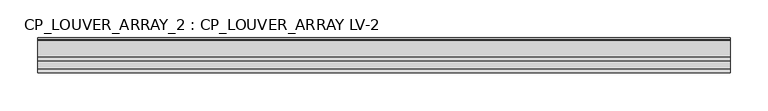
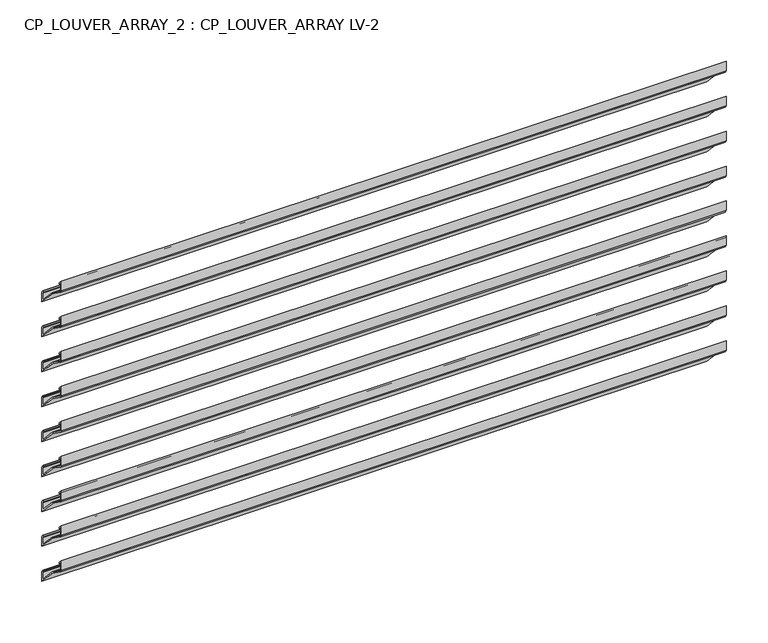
"""IFC4 building model written with IfcOpenShell, lengths in millimetres: plate geometry, CP_LOUVER_ARRAY_2 : CP_LOUVER_ARRAY LV-2."""

import ifcopenshell
import ifcopenshell.guid

model = None  # the IFC model being written
_history = None  # IfcOwnerHistory: only IFC2X3 demands one
_inside = {}  # id of a spatial element -> (the spatial element, [elements in it])
_under = {}  # id of a project, library or spatial element -> (it, [spatial elements below it])
_declared = {}  # id of a project -> (the project, [libraries it declares])
_typed = {}  # id of a type object -> (the type object, [elements of that type])
_made_of = {}  # id of a material, layer set ... -> (it, [elements and type objects made of it])


def new_model(schema):
    """Start an empty IFC model of exactly this schema.

    Asked for "IFC4X3", IfcOpenShell would pick the latest addendum, in which some entities
    have other attributes; the version numbers below select the first issue.
    IFC2X3 requires an IfcOwnerHistory on every rooted entity: one is made here for all.
    """
    global model, _history
    if schema == "IFC4X3":
        model = ifcopenshell.file(schema_version=(4, 3, 0, 0))
    else:
        model = ifcopenshell.file(schema=schema)
    _inside.clear()
    _under.clear()
    _declared.clear()
    _typed.clear()
    _made_of.clear()
    _history = None
    if model.schema == "IFC2X3":
        org = make("IfcOrganization", Name="unknown")
        user = make(
            "IfcPersonAndOrganization",
            ThePerson=make("IfcPerson", FamilyName="unknown"),
            TheOrganization=org,
        )
        app = make(
            "IfcApplication",
            ApplicationDeveloper=org,
            Version="unknown",
            ApplicationFullName="unknown",
            ApplicationIdentifier="unknown",
        )
        _history = make(
            "IfcOwnerHistory",
            OwningUser=user,
            OwningApplication=app,
            ChangeAction="ADDED",
            CreationDate=0,
        )
    return model


def make(cls, **values):
    """One entity of the class cls with the attributes given. An attribute that is None is left unset."""
    return model.create_entity(
        cls, **{name: value for name, value in values.items() if value is not None}
    )


def rooted(cls, **values):
    """An entity with a GlobalId (a new one), such as an element, a storey or a relation."""
    return make(cls, GlobalId=ifcopenshell.guid.new(), OwnerHistory=_history, **values)


def si_unit(unit_type, name, prefix=None):
    """IfcSIUnit, for example si_unit("LENGTHUNIT", "METRE", prefix="MILLI")."""
    return make("IfcSIUnit", UnitType=unit_type, Prefix=prefix, Name=name)


def assignment(units):
    """IfcUnitAssignment: the units of a project."""
    return None if units is None else make("IfcUnitAssignment", Units=units)


def point(xyz):
    """IfcCartesianPoint."""
    return None if xyz is None else make("IfcCartesianPoint", Coordinates=xyz)


def direction(xyz):
    """IfcDirection."""
    return None if xyz is None else make("IfcDirection", DirectionRatios=xyz)


def frame(location, z_axis=None, x_axis=None):
    """IfcAxis2Placement3D, a coordinate frame: its origin and axes. An axis left out is left unset."""
    return make(
        "IfcAxis2Placement3D",
        Location=point(location),
        Axis=direction(z_axis),
        RefDirection=direction(x_axis),
    )


def origin():
    """The frame at (0, 0, 0) with its axes left unset."""
    return frame((0.0, 0.0, 0.0))


def place(relative_to, where):
    """IfcLocalPlacement: puts the frame where relative to a parent placement (None: the world)."""
    return make(
        "IfcLocalPlacement", PlacementRelTo=relative_to, RelativePlacement=where
    )


def context(
    kind, dimensions, precision=None, world=None, true_north=None, identifier=None
):
    """IfcGeometricRepresentationContext, for example the 3D "Model" context."""
    return make(
        "IfcGeometricRepresentationContext",
        ContextIdentifier=identifier,
        ContextType=kind,
        CoordinateSpaceDimension=dimensions,
        Precision=precision,
        WorldCoordinateSystem=world,
        TrueNorth=true_north,
    )


def project(units=None, contexts=None):
    """IfcProject with its units and contexts."""
    return rooted(
        "IfcProject",
        Name="project",
        RepresentationContexts=contexts,
        UnitsInContext=assignment(units),
    )


def spatial(cls, under=None, at=None, **own):
    """A site, building, storey or space (cls), placed at a placement, below another one or the project."""
    s = rooted(cls, ObjectPlacement=at, **own)
    if under is not None:
        _under.setdefault(under.id(), (under, []))[1].append(s)
    return s


def faces_of(points, faces, orient=None, outer=None):
    """IfcFace entities. A face is a list of loops; a loop is a list of indices into points, from 0.

    orient and outer hold one flag for each loop. By default every Orientation is true, the
    first loop of a face is its IfcFaceOuterBound and the others are IfcFaceBound.
    """
    made = []
    for i, loops in enumerate(faces):
        bounds = []
        for j, loop in enumerate(loops):
            is_outer = j == 0 if outer is None else outer[i][j]
            bounds.append(
                make(
                    "IfcFaceOuterBound" if is_outer else "IfcFaceBound",
                    Bound=make("IfcPolyLoop", Polygon=[points[k] for k in loop]),
                    Orientation=True if orient is None else orient[i][j],
                )
            )
        made.append(make("IfcFace", Bounds=bounds))
    return made


def faceted_brep(points, faces, orient=None, outer=None, voids=None):
    """IfcFacetedBrep: a solid bounded by flat faces; with voids (closed shells), ...WithVoids."""
    shared = [point(p) for p in points]
    hull = make("IfcClosedShell", CfsFaces=faces_of(shared, faces, orient, outer))
    if voids is None:
        return make("IfcFacetedBrep", Outer=hull)
    return make(
        "IfcFacetedBrepWithVoids",
        Outer=hull,
        Voids=[
            make(cls, CfsFaces=faces_of(shared, fs, o, b)) for cls, fs, o, b in voids
        ],
    )


def shape(context_of_items, identifier, shape_type, items):
    """IfcShapeRepresentation: the items that make up one representation, for example the "Body"."""
    return make(
        "IfcShapeRepresentation",
        ContextOfItems=context_of_items,
        RepresentationIdentifier=identifier,
        RepresentationType=shape_type,
        Items=items,
    )


def source(mapping_origin, context_of_items, identifier, shape_type, items):
    """IfcRepresentationMap: a shape defined once, which mapped items show again and again."""
    return make(
        "IfcRepresentationMap",
        MappingOrigin=mapping_origin,
        MappedRepresentation=shape(context_of_items, identifier, shape_type, items),
    )


def transform(
    local_origin,
    x_axis=None,
    y_axis=None,
    z_axis=None,
    scale=None,
    scale2=None,
    scale3=None,
    uniform=True,
):
    """IfcCartesianTransformationOperator3D, or its non-uniform kind. x_axis, y_axis, z_axis: its Axis1, 2, 3."""
    if uniform:
        return make(
            "IfcCartesianTransformationOperator3D",
            Axis1=direction(x_axis),
            Axis2=direction(y_axis),
            LocalOrigin=point(local_origin),
            Scale=scale,
            Axis3=direction(z_axis),
        )
    return make(
        "IfcCartesianTransformationOperator3DnonUniform",
        Axis1=direction(x_axis),
        Axis2=direction(y_axis),
        LocalOrigin=point(local_origin),
        Scale=scale,
        Axis3=direction(z_axis),
        Scale2=scale2,
        Scale3=scale3,
    )


def mapped(mapping_source, mapping_target):
    """IfcMappedItem: shows the shape of a source again, moved by a transform."""
    return make(
        "IfcMappedItem", MappingSource=mapping_source, MappingTarget=mapping_target
    )


def made_of(thing, what):
    """Note that an element or type object is made of a material, layer set ...; save() writes the relation."""
    if what is not None:
        _made_of.setdefault(what.id(), (what, []))[1].append(thing)
    return thing


def element(
    cls,
    number,
    at=None,
    inside=None,
    cuts=None,
    type_object=None,
    material=None,
    context=None,
    identifier="Body",
    shape_type=None,
    held_by="IfcProductDefinitionShape",
    body=None,
    shapes=None,
    **own,
):
    """One element of the class cls, such as IfcWall. Its Tag is "e" and its number.

    at: its placement. inside: the storey or other place that contains it. cuts: it is an
    opening in that element (IfcRelVoidsElement). A single representation is given by context,
    identifier, shape_type and body (its items); several are given by shapes. held_by: the class
    of the entity that holds the representations. save() writes the other relations.
    """
    e = rooted(cls, Tag="e%d" % number, ObjectPlacement=at, **own)
    if body is not None:
        shapes = [shape(context, identifier, shape_type, body)]
    if shapes is not None:
        e.Representation = make(held_by, Representations=shapes)
    if inside is not None:
        _inside.setdefault(inside.id(), (inside, []))[1].append(e)
    if cuts is not None:
        rooted(
            "IfcRelVoidsElement", RelatingBuildingElement=cuts, RelatedOpeningElement=e
        )
    if type_object is not None:
        _typed.setdefault(type_object.id(), (type_object, []))[1].append(e)
    return made_of(e, material)


def aggregate(whole, parts):
    """IfcRelAggregates: a whole, such as a stair, and the parts it consists of."""
    return rooted("IfcRelAggregates", RelatingObject=whole, RelatedObjects=parts)


def save(model, path):
    """Write the relations noted so far, then the file.

    IfcRelAggregates (storeys below a building ...), IfcRelContainedInSpatialStructure (elements
    in a storey), IfcRelDefinesByType, IfcRelAssociatesMaterial and IfcRelDeclares: one each for
    every whole, place, type object, material and project.
    """
    for whole, parts in _under.values():
        aggregate(whole, parts)
    for where, things in _inside.values():
        rooted(
            "IfcRelContainedInSpatialStructure",
            RelatedElements=things,
            RelatingStructure=where,
        )
    for kind, things in _typed.values():
        rooted("IfcRelDefinesByType", RelatedObjects=things, RelatingType=kind)
    for what, things in _made_of.values():
        rooted("IfcRelAssociatesMaterial", RelatedObjects=things, RelatingMaterial=what)
    for by, libraries in _declared.values():
        rooted("IfcRelDeclares", RelatingContext=by, RelatedDefinitions=libraries)
    model.write(path)


def cp_louver_array_2_cp_louver_array_lv_2_4970348b(model_context):
    return source(origin(), model_context, "Body", "Brep", [
        faceted_brep([(457.2, -96.3393096, 447.5165033), (457.2, -69.85, 419.1101965), (457.2, -69.85, 432.9818805), (457.2, -71.4632993, 436.1728583), (457.2, -73.025, 437.3225348), (457.2, -73.025, 435.4301063), (457.2, -71.374, 432.9818805), (457.2, -71.374, 422.9790959), (457.2, -94.5749864, 447.8480819), (457.2, -99.9681804, 451.7002768), (457.2, -113.6250477, 461.357519), (457.2, -114.6556, 463.3484382), (457.2, -114.6556, 473.3034961), (457.2, -111.4806, 469.8987254), (457.2, -111.4806, 472.1333349), (457.2, -116.1796, 477.1723955), (457.2, -116.1796, 463.3484382), (457.2, -114.5049525, 460.1131944), (457.2, -100.8480853, 450.4559523), (-457.2, -96.3393096, 447.5165033), (-457.2, -100.8480853, 450.4559523), (-457.2, -114.5049525, 460.1131944), (-457.2, -116.1796, 463.3484382), (-457.2, -116.1796, 477.1723955), (-457.2, -111.4806, 472.1333349), (-457.2, -111.4806, 469.8987254), (-457.2, -114.6556, 473.3034961), (-457.2, -114.6556, 463.3484382), (-457.2, -113.6250477, 461.357519), (-457.2, -99.9681804, 451.7002768), (-457.2, -94.5749864, 447.8480819), (-457.2, -71.3542993, 422.9975045), (-457.2, -71.374, 432.9818805), (-457.2, -73.025, 435.4301063), (-457.2, -73.025, 437.3225348), (-457.2, -71.4632993, 436.1728583), (-457.2, -69.85, 432.9818805), (-457.2, -69.85, 419.1101965)], [[[0, 1, 2, 3, 4, 5, 6, 7, 8, 9, 10, 11, 12, 13, 14, 15, 16, 17, 18]], [[19, 20, 21, 22, 23, 24, 25, 26, 27, 28, 29, 30, 31, 32, 33, 34, 35, 36, 37]], [[1, 0, 19, 37]], [[2, 1, 37, 36]], [[3, 2, 36, 35]], [[4, 3, 35, 34]], [[5, 4, 34, 33]], [[6, 5, 33, 32]], [[7, 6, 32, 31]], [[7, 31, 30, 8]], [[9, 8, 30, 29]], [[10, 9, 29, 28]], [[11, 10, 28, 27]], [[12, 11, 27, 26]], [[13, 12, 26, 25]], [[14, 13, 25, 24]], [[15, 14, 24, 23]], [[16, 15, 23, 22]], [[17, 16, 22, 21]], [[18, 17, 21, 20]], [[0, 18, 20, 19]]]),
        faceted_brep([(457.2, -96.3393096, 396.7152288), (457.2, -69.85, 368.308922), (457.2, -69.85, 382.1806059), (457.2, -71.4632993, 385.3715838), (457.2, -73.025, 386.5212603), (457.2, -73.025, 384.6288317), (457.2, -71.374, 382.1806059), (457.2, -71.374, 372.1778214), (457.2, -94.5749864, 397.0468074), (457.2, -99.9681804, 400.8990022), (457.2, -113.6250477, 410.5562444), (457.2, -114.6556, 412.5471636), (457.2, -114.6556, 422.5022215), (457.2, -111.4806, 419.0974509), (457.2, -111.4806, 421.3320603), (457.2, -116.1796, 426.3711209), (457.2, -116.1796, 412.5471636), (457.2, -114.5049525, 409.3119199), (457.2, -100.8480853, 399.6546777), (-457.2, -96.3393096, 396.7152288), (-457.2, -100.8480853, 399.6546777), (-457.2, -114.5049525, 409.3119199), (-457.2, -116.1796, 412.5471636), (-457.2, -116.1796, 426.3711209), (-457.2, -111.4806, 421.3320603), (-457.2, -111.4806, 419.0974509), (-457.2, -114.6556, 422.5022215), (-457.2, -114.6556, 412.5471636), (-457.2, -113.6250477, 410.5562444), (-457.2, -99.9681804, 400.8990022), (-457.2, -94.5749864, 397.0468074), (-457.2, -71.3542993, 372.1962299), (-457.2, -71.374, 382.1806059), (-457.2, -73.025, 384.6288317), (-457.2, -73.025, 386.5212603), (-457.2, -71.4632993, 385.3715838), (-457.2, -69.85, 382.1806059), (-457.2, -69.85, 368.308922)], [[[0, 1, 2, 3, 4, 5, 6, 7, 8, 9, 10, 11, 12, 13, 14, 15, 16, 17, 18]], [[19, 20, 21, 22, 23, 24, 25, 26, 27, 28, 29, 30, 31, 32, 33, 34, 35, 36, 37]], [[1, 0, 19, 37]], [[2, 1, 37, 36]], [[3, 2, 36, 35]], [[4, 3, 35, 34]], [[5, 4, 34, 33]], [[6, 5, 33, 32]], [[7, 6, 32, 31]], [[7, 31, 30, 8]], [[9, 8, 30, 29]], [[10, 9, 29, 28]], [[11, 10, 28, 27]], [[12, 11, 27, 26]], [[13, 12, 26, 25]], [[14, 13, 25, 24]], [[15, 14, 24, 23]], [[16, 15, 23, 22]], [[17, 16, 22, 21]], [[18, 17, 21, 20]], [[0, 18, 20, 19]]]),
        faceted_brep([(457.2, -96.3393096, 345.9139542), (457.2, -69.85, 317.5076474), (457.2, -69.85, 331.3793314), (457.2, -71.4632993, 334.5703092), (457.2, -73.025, 335.7199857), (457.2, -73.025, 333.8275571), (457.2, -71.374, 331.3793314), (457.2, -71.374, 321.3765468), (457.2, -94.5749864, 346.2455328), (457.2, -99.9681804, 350.0977276), (457.2, -113.6250477, 359.7549698), (457.2, -114.6556, 361.7458891), (457.2, -114.6556, 371.7009469), (457.2, -111.4806, 368.2961763), (457.2, -111.4806, 370.5307858), (457.2, -116.1796, 375.5698463), (457.2, -116.1796, 361.7458891), (457.2, -114.5049525, 358.5106453), (457.2, -100.8480853, 348.8534031), (-457.2, -96.3393096, 345.9139542), (-457.2, -100.8480853, 348.8534031), (-457.2, -114.5049525, 358.5106453), (-457.2, -116.1796, 361.7458891), (-457.2, -116.1796, 375.5698463), (-457.2, -111.4806, 370.5307858), (-457.2, -111.4806, 368.2961763), (-457.2, -114.6556, 371.7009469), (-457.2, -114.6556, 361.7458891), (-457.2, -113.6250477, 359.7549698), (-457.2, -99.9681804, 350.0977276), (-457.2, -94.5749864, 346.2455328), (-457.2, -71.3542993, 321.3949553), (-457.2, -71.374, 331.3793314), (-457.2, -73.025, 333.8275571), (-457.2, -73.025, 335.7199857), (-457.2, -71.4632993, 334.5703092), (-457.2, -69.85, 331.3793314), (-457.2, -69.85, 317.5076474)], [[[0, 1, 2, 3, 4, 5, 6, 7, 8, 9, 10, 11, 12, 13, 14, 15, 16, 17, 18]], [[19, 20, 21, 22, 23, 24, 25, 26, 27, 28, 29, 30, 31, 32, 33, 34, 35, 36, 37]], [[1, 0, 19, 37]], [[2, 1, 37, 36]], [[3, 2, 36, 35]], [[4, 3, 35, 34]], [[5, 4, 34, 33]], [[6, 5, 33, 32]], [[7, 6, 32, 31]], [[7, 31, 30, 8]], [[9, 8, 30, 29]], [[10, 9, 29, 28]], [[11, 10, 28, 27]], [[12, 11, 27, 26]], [[13, 12, 26, 25]], [[14, 13, 25, 24]], [[15, 14, 24, 23]], [[16, 15, 23, 22]], [[17, 16, 22, 21]], [[18, 17, 21, 20]], [[0, 18, 20, 19]]]),
        faceted_brep([(457.2, -96.3393096, 295.1126796), (457.2, -69.85, 266.7063728), (457.2, -69.85, 280.5780568), (457.2, -71.4632993, 283.7690346), (457.2, -73.025, 284.9187111), (457.2, -73.025, 283.0262826), (457.2, -71.374, 280.5780568), (457.2, -71.374, 270.5752722), (457.2, -94.5749864, 295.4442582), (457.2, -99.9681804, 299.2964531), (457.2, -113.6250477, 308.9536953), (457.2, -114.6556, 310.9446145), (457.2, -114.6556, 320.8996724), (457.2, -111.4806, 317.4949017), (457.2, -111.4806, 319.7295112), (457.2, -116.1796, 324.7685718), (457.2, -116.1796, 310.9446145), (457.2, -114.5049525, 307.7093707), (457.2, -100.8480853, 298.0521286), (-457.2, -96.3393096, 295.1126796), (-457.2, -100.8480853, 298.0521286), (-457.2, -114.5049525, 307.7093707), (-457.2, -116.1796, 310.9446145), (-457.2, -116.1796, 324.7685718), (-457.2, -111.4806, 319.7295112), (-457.2, -111.4806, 317.4949017), (-457.2, -114.6556, 320.8996724), (-457.2, -114.6556, 310.9446145), (-457.2, -113.6250477, 308.9536953), (-457.2, -99.9681804, 299.2964531), (-457.2, -94.5749864, 295.4442582), (-457.2, -71.3542993, 270.5936808), (-457.2, -71.374, 280.5780568), (-457.2, -73.025, 283.0262826), (-457.2, -73.025, 284.9187111), (-457.2, -71.4632993, 283.7690346), (-457.2, -69.85, 280.5780568), (-457.2, -69.85, 266.7063728)], [[[0, 1, 2, 3, 4, 5, 6, 7, 8, 9, 10, 11, 12, 13, 14, 15, 16, 17, 18]], [[19, 20, 21, 22, 23, 24, 25, 26, 27, 28, 29, 30, 31, 32, 33, 34, 35, 36, 37]], [[1, 0, 19, 37]], [[2, 1, 37, 36]], [[3, 2, 36, 35]], [[4, 3, 35, 34]], [[5, 4, 34, 33]], [[6, 5, 33, 32]], [[7, 6, 32, 31]], [[7, 31, 30, 8]], [[9, 8, 30, 29]], [[10, 9, 29, 28]], [[11, 10, 28, 27]], [[12, 11, 27, 26]], [[13, 12, 26, 25]], [[14, 13, 25, 24]], [[15, 14, 24, 23]], [[16, 15, 23, 22]], [[17, 16, 22, 21]], [[18, 17, 21, 20]], [[0, 18, 20, 19]]]),
        faceted_brep([(457.2, -96.3393096, 244.3114051), (457.2, -69.85, 215.9050983), (457.2, -69.85, 229.7767822), (457.2, -71.4632993, 232.9677601), (457.2, -73.025, 234.1174365), (457.2, -73.025, 232.225008), (457.2, -71.374, 229.7767822), (457.2, -71.374, 219.7739977), (457.2, -94.5749864, 244.6429837), (457.2, -99.9681804, 248.4951785), (457.2, -113.6250477, 258.1524207), (457.2, -114.6556, 260.1433399), (457.2, -114.6556, 270.0983978), (457.2, -111.4806, 266.6936272), (457.2, -111.4806, 268.9282366), (457.2, -116.1796, 273.9672972), (457.2, -116.1796, 260.1433399), (457.2, -114.5049525, 256.9080962), (457.2, -100.8480853, 247.250854), (-457.2, -96.3393096, 244.3114051), (-457.2, -100.8480853, 247.250854), (-457.2, -114.5049525, 256.9080962), (-457.2, -116.1796, 260.1433399), (-457.2, -116.1796, 273.9672972), (-457.2, -111.4806, 268.9282366), (-457.2, -111.4806, 266.6936272), (-457.2, -114.6556, 270.0983978), (-457.2, -114.6556, 260.1433399), (-457.2, -113.6250477, 258.1524207), (-457.2, -99.9681804, 248.4951785), (-457.2, -94.5749864, 244.6429837), (-457.2, -71.3542993, 219.7924062), (-457.2, -71.374, 229.7767822), (-457.2, -73.025, 232.225008), (-457.2, -73.025, 234.1174365), (-457.2, -71.4632993, 232.9677601), (-457.2, -69.85, 229.7767822), (-457.2, -69.85, 215.9050983)], [[[0, 1, 2, 3, 4, 5, 6, 7, 8, 9, 10, 11, 12, 13, 14, 15, 16, 17, 18]], [[19, 20, 21, 22, 23, 24, 25, 26, 27, 28, 29, 30, 31, 32, 33, 34, 35, 36, 37]], [[1, 0, 19, 37]], [[2, 1, 37, 36]], [[3, 2, 36, 35]], [[4, 3, 35, 34]], [[5, 4, 34, 33]], [[6, 5, 33, 32]], [[7, 6, 32, 31]], [[7, 31, 30, 8]], [[9, 8, 30, 29]], [[10, 9, 29, 28]], [[11, 10, 28, 27]], [[12, 11, 27, 26]], [[13, 12, 26, 25]], [[14, 13, 25, 24]], [[15, 14, 24, 23]], [[16, 15, 23, 22]], [[17, 16, 22, 21]], [[18, 17, 21, 20]], [[0, 18, 20, 19]]]),
        faceted_brep([(457.2, -96.3393096, 193.5101305), (457.2, -69.85, 165.1038237), (457.2, -69.85, 178.9755076), (457.2, -71.4632993, 182.1664855), (457.2, -73.025, 183.316162), (457.2, -73.025, 181.4237334), (457.2, -71.374, 178.9755076), (457.2, -71.374, 168.9727231), (457.2, -94.5749864, 193.8417091), (457.2, -99.9681804, 197.6939039), (457.2, -113.6250477, 207.3511461), (457.2, -114.6556, 209.3420654), (457.2, -114.6556, 219.2971232), (457.2, -111.4806, 215.8923526), (457.2, -111.4806, 218.1269621), (457.2, -116.1796, 223.1660226), (457.2, -116.1796, 209.3420654), (457.2, -114.5049525, 206.1068216), (457.2, -100.8480853, 196.4495794), (-457.2, -96.3393096, 193.5101305), (-457.2, -100.8480853, 196.4495794), (-457.2, -114.5049525, 206.1068216), (-457.2, -116.1796, 209.3420654), (-457.2, -116.1796, 223.1660226), (-457.2, -111.4806, 218.1269621), (-457.2, -111.4806, 215.8923526), (-457.2, -114.6556, 219.2971232), (-457.2, -114.6556, 209.3420654), (-457.2, -113.6250477, 207.3511461), (-457.2, -99.9681804, 197.6939039), (-457.2, -94.5749864, 193.8417091), (-457.2, -71.3542993, 168.9911316), (-457.2, -71.374, 178.9755076), (-457.2, -73.025, 181.4237334), (-457.2, -73.025, 183.316162), (-457.2, -71.4632993, 182.1664855), (-457.2, -69.85, 178.9755076), (-457.2, -69.85, 165.1038237)], [[[0, 1, 2, 3, 4, 5, 6, 7, 8, 9, 10, 11, 12, 13, 14, 15, 16, 17, 18]], [[19, 20, 21, 22, 23, 24, 25, 26, 27, 28, 29, 30, 31, 32, 33, 34, 35, 36, 37]], [[1, 0, 19, 37]], [[2, 1, 37, 36]], [[3, 2, 36, 35]], [[4, 3, 35, 34]], [[5, 4, 34, 33]], [[6, 5, 33, 32]], [[7, 6, 32, 31]], [[7, 31, 30, 8]], [[9, 8, 30, 29]], [[10, 9, 29, 28]], [[11, 10, 28, 27]], [[12, 11, 27, 26]], [[13, 12, 26, 25]], [[14, 13, 25, 24]], [[15, 14, 24, 23]], [[16, 15, 23, 22]], [[17, 16, 22, 21]], [[18, 17, 21, 20]], [[0, 18, 20, 19]]]),
        faceted_brep([(457.2, -96.3393096, 142.7088559), (457.2, -69.85, 114.3025491), (457.2, -69.85, 128.1742331), (457.2, -71.4632993, 131.3652109), (457.2, -73.025, 132.5148874), (457.2, -73.025, 130.6224589), (457.2, -71.374, 128.1742331), (457.2, -71.374, 118.1714485), (457.2, -94.5749864, 143.0404345), (457.2, -99.9681804, 146.8926294), (457.2, -113.6250477, 156.5498716), (457.2, -114.6556, 158.5407908), (457.2, -114.6556, 168.4958487), (457.2, -111.4806, 165.091078), (457.2, -111.4806, 167.3256875), (457.2, -116.1796, 172.3647481), (457.2, -116.1796, 158.5407908), (457.2, -114.5049525, 155.305547), (457.2, -100.8480853, 145.6483048), (-457.2, -96.3393096, 142.7088559), (-457.2, -100.8480853, 145.6483048), (-457.2, -114.5049525, 155.305547), (-457.2, -116.1796, 158.5407908), (-457.2, -116.1796, 172.3647481), (-457.2, -111.4806, 167.3256875), (-457.2, -111.4806, 165.091078), (-457.2, -114.6556, 168.4958487), (-457.2, -114.6556, 158.5407908), (-457.2, -113.6250477, 156.5498716), (-457.2, -99.9681804, 146.8926294), (-457.2, -94.5749864, 143.0404345), (-457.2, -71.3542993, 118.1898571), (-457.2, -71.374, 128.1742331), (-457.2, -73.025, 130.6224589), (-457.2, -73.025, 132.5148874), (-457.2, -71.4632993, 131.3652109), (-457.2, -69.85, 128.1742331), (-457.2, -69.85, 114.3025491)], [[[0, 1, 2, 3, 4, 5, 6, 7, 8, 9, 10, 11, 12, 13, 14, 15, 16, 17, 18]], [[19, 20, 21, 22, 23, 24, 25, 26, 27, 28, 29, 30, 31, 32, 33, 34, 35, 36, 37]], [[1, 0, 19, 37]], [[2, 1, 37, 36]], [[3, 2, 36, 35]], [[4, 3, 35, 34]], [[5, 4, 34, 33]], [[6, 5, 33, 32]], [[7, 6, 32, 31]], [[7, 31, 30, 8]], [[9, 8, 30, 29]], [[10, 9, 29, 28]], [[11, 10, 28, 27]], [[12, 11, 27, 26]], [[13, 12, 26, 25]], [[14, 13, 25, 24]], [[15, 14, 24, 23]], [[16, 15, 23, 22]], [[17, 16, 22, 21]], [[18, 17, 21, 20]], [[0, 18, 20, 19]]]),
        faceted_brep([(457.2, -96.3393096, 91.9075814), (457.2, -69.85, 63.5012746), (457.2, -69.85, 77.3729585), (457.2, -71.4632993, 80.5639364), (457.2, -73.025, 81.7136128), (457.2, -73.025, 79.8211843), (457.2, -71.374, 77.3729585), (457.2, -71.374, 67.370174), (457.2, -94.5749864, 92.23916), (457.2, -99.9681804, 96.0913548), (457.2, -113.6250477, 105.748597), (457.2, -114.6556, 107.7395162), (457.2, -114.6556, 117.6945741), (457.2, -111.4806, 114.2898035), (457.2, -111.4806, 116.5244129), (457.2, -116.1796, 121.5634735), (457.2, -116.1796, 107.7395162), (457.2, -114.5049525, 104.5042725), (457.2, -100.8480853, 94.8470303), (-457.2, -96.3393096, 91.9075814), (-457.2, -100.8480853, 94.8470303), (-457.2, -114.5049525, 104.5042725), (-457.2, -116.1796, 107.7395162), (-457.2, -116.1796, 121.5634735), (-457.2, -111.4806, 116.5244129), (-457.2, -111.4806, 114.2898035), (-457.2, -114.6556, 117.6945741), (-457.2, -114.6556, 107.7395162), (-457.2, -113.6250477, 105.748597), (-457.2, -99.9681804, 96.0913548), (-457.2, -94.5749864, 92.23916), (-457.2, -71.3542993, 67.3885825), (-457.2, -71.374, 77.3729585), (-457.2, -73.025, 79.8211843), (-457.2, -73.025, 81.7136128), (-457.2, -71.4632993, 80.5639364), (-457.2, -69.85, 77.3729585), (-457.2, -69.85, 63.5012746)], [[[0, 1, 2, 3, 4, 5, 6, 7, 8, 9, 10, 11, 12, 13, 14, 15, 16, 17, 18]], [[19, 20, 21, 22, 23, 24, 25, 26, 27, 28, 29, 30, 31, 32, 33, 34, 35, 36, 37]], [[1, 0, 19, 37]], [[2, 1, 37, 36]], [[3, 2, 36, 35]], [[4, 3, 35, 34]], [[5, 4, 34, 33]], [[6, 5, 33, 32]], [[7, 6, 32, 31]], [[7, 31, 30, 8]], [[9, 8, 30, 29]], [[10, 9, 29, 28]], [[11, 10, 28, 27]], [[12, 11, 27, 26]], [[13, 12, 26, 25]], [[14, 13, 25, 24]], [[15, 14, 24, 23]], [[16, 15, 23, 22]], [[17, 16, 22, 21]], [[18, 17, 21, 20]], [[0, 18, 20, 19]]]),
        faceted_brep([(457.2, -96.3393096, 41.1063068), (457.2, -69.85, 12.7), (457.2, -69.85, 26.5716839), (457.2, -71.4632993, 29.7626618), (457.2, -73.025, 30.9123383), (457.2, -73.025, 29.0199097), (457.2, -71.374, 26.5716839), (457.2, -71.374, 16.5688994), (457.2, -94.5749864, 41.4378854), (457.2, -99.9681804, 45.2900802), (457.2, -113.6250477, 54.9473224), (457.2, -114.6556, 56.9382417), (457.2, -114.6556, 66.8932995), (457.2, -111.4806, 63.4885289), (457.2, -111.4806, 65.7231384), (457.2, -116.1796, 70.7621989), (457.2, -116.1796, 56.9382417), (457.2, -114.5049525, 53.7029979), (457.2, -100.8480853, 44.0457557), (-457.2, -96.3393096, 41.1063068), (-457.2, -100.8480853, 44.0457557), (-457.2, -114.5049525, 53.7029979), (-457.2, -116.1796, 56.9382417), (-457.2, -116.1796, 70.7621989), (-457.2, -111.4806, 65.7231384), (-457.2, -111.4806, 63.4885289), (-457.2, -114.6556, 66.8932995), (-457.2, -114.6556, 56.9382417), (-457.2, -113.6250477, 54.9473224), (-457.2, -99.9681804, 45.2900802), (-457.2, -94.5749864, 41.4378854), (-457.2, -71.3542993, 16.5873079), (-457.2, -71.374, 26.5716839), (-457.2, -73.025, 29.0199097), (-457.2, -73.025, 30.9123383), (-457.2, -71.4632993, 29.7626618), (-457.2, -69.85, 26.5716839), (-457.2, -69.85, 12.7)], [[[0, 1, 2, 3, 4, 5, 6, 7, 8, 9, 10, 11, 12, 13, 14, 15, 16, 17, 18]], [[19, 20, 21, 22, 23, 24, 25, 26, 27, 28, 29, 30, 31, 32, 33, 34, 35, 36, 37]], [[1, 0, 19, 37]], [[2, 1, 37, 36]], [[3, 2, 36, 35]], [[4, 3, 35, 34]], [[5, 4, 34, 33]], [[6, 5, 33, 32]], [[7, 6, 32, 31]], [[7, 31, 30, 8]], [[9, 8, 30, 29]], [[10, 9, 29, 28]], [[11, 10, 28, 27]], [[12, 11, 27, 26]], [[13, 12, 26, 25]], [[14, 13, 25, 24]], [[15, 14, 24, 23]], [[16, 15, 23, 22]], [[17, 16, 22, 21]], [[18, 17, 21, 20]], [[0, 18, 20, 19]]]),
    ])


if __name__ == "__main__":
    model = new_model("IFC4")
    model_context = context("Model", 3, world=origin())
    ifc_project = project(units=[si_unit("LENGTHUNIT", "METRE", prefix="MILLI")], contexts=[model_context])
    site = spatial("IfcSite", under=ifc_project)
    building = spatial("IfcBuilding", under=site)
    placement = place(None, origin())
    cp_louver_array_2_cp_louver_array_lv_2_shape = cp_louver_array_2_cp_louver_array_lv_2_4970348b(model_context)
    element("IfcPlate", 1, ObjectType="CP_LOUVER_ARRAY_2 : CP_LOUVER_ARRAY LV-2", at=placement, inside=building, context=model_context, shape_type="MappedRepresentation", body=[
        mapped(cp_louver_array_2_cp_louver_array_lv_2_shape, transform((0.0, 0.0, 0.0), x_axis=(1.0, 0.0, 0.0), y_axis=(0.0, 1.0, 0.0), z_axis=(0.0, 0.0, 1.0))),
    ])
    save(model, "model.ifc")
